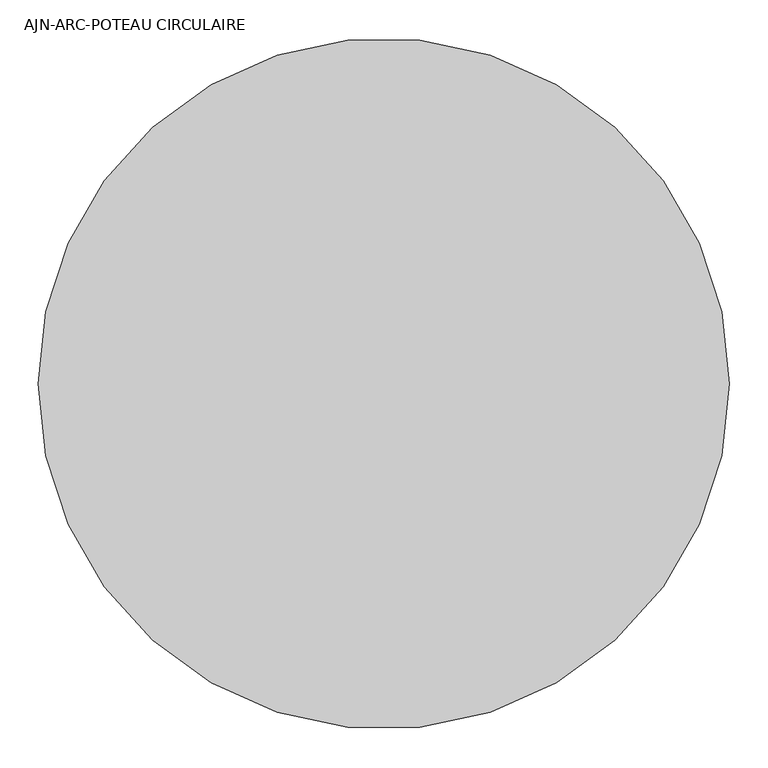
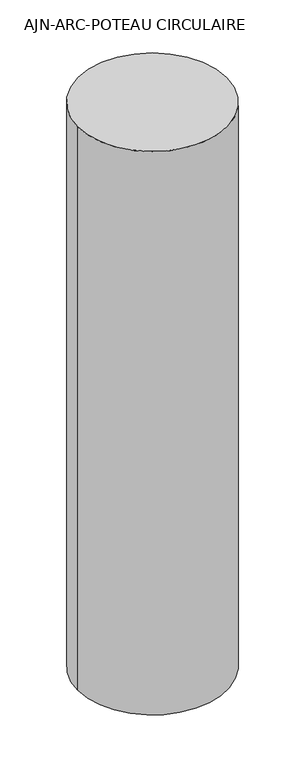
"""IFC4 building model written with IfcOpenShell, lengths in millimetres: column geometry, AJN-ARC-POTEAU CIRCULAIRE : ø90."""

import ifcopenshell
import ifcopenshell.guid

model = None  # the IFC model being written
_history = None  # IfcOwnerHistory: only IFC2X3 demands one
_inside = {}  # id of a spatial element -> (the spatial element, [elements in it])
_under = {}  # id of a project, library or spatial element -> (it, [spatial elements below it])
_declared = {}  # id of a project -> (the project, [libraries it declares])
_typed = {}  # id of a type object -> (the type object, [elements of that type])
_made_of = {}  # id of a material, layer set ... -> (it, [elements and type objects made of it])


def new_model(schema):
    """Start an empty IFC model of exactly this schema.

    Asked for "IFC4X3", IfcOpenShell would pick the latest addendum, in which some entities
    have other attributes; the version numbers below select the first issue.
    IFC2X3 requires an IfcOwnerHistory on every rooted entity: one is made here for all.
    """
    global model, _history
    if schema == "IFC4X3":
        model = ifcopenshell.file(schema_version=(4, 3, 0, 0))
    else:
        model = ifcopenshell.file(schema=schema)
    _inside.clear()
    _under.clear()
    _declared.clear()
    _typed.clear()
    _made_of.clear()
    _history = None
    if model.schema == "IFC2X3":
        org = make("IfcOrganization", Name="unknown")
        user = make(
            "IfcPersonAndOrganization",
            ThePerson=make("IfcPerson", FamilyName="unknown"),
            TheOrganization=org,
        )
        app = make(
            "IfcApplication",
            ApplicationDeveloper=org,
            Version="unknown",
            ApplicationFullName="unknown",
            ApplicationIdentifier="unknown",
        )
        _history = make(
            "IfcOwnerHistory",
            OwningUser=user,
            OwningApplication=app,
            ChangeAction="ADDED",
            CreationDate=0,
        )
    return model


def make(cls, **values):
    """One entity of the class cls with the attributes given. An attribute that is None is left unset."""
    return model.create_entity(
        cls, **{name: value for name, value in values.items() if value is not None}
    )


def rooted(cls, **values):
    """An entity with a GlobalId (a new one), such as an element, a storey or a relation."""
    return make(cls, GlobalId=ifcopenshell.guid.new(), OwnerHistory=_history, **values)


def si_unit(unit_type, name, prefix=None):
    """IfcSIUnit, for example si_unit("LENGTHUNIT", "METRE", prefix="MILLI")."""
    return make("IfcSIUnit", UnitType=unit_type, Prefix=prefix, Name=name)


def assignment(units):
    """IfcUnitAssignment: the units of a project."""
    return None if units is None else make("IfcUnitAssignment", Units=units)


def point(xyz):
    """IfcCartesianPoint."""
    return None if xyz is None else make("IfcCartesianPoint", Coordinates=xyz)


def direction(xyz):
    """IfcDirection."""
    return None if xyz is None else make("IfcDirection", DirectionRatios=xyz)


def frame(location, z_axis=None, x_axis=None):
    """IfcAxis2Placement3D, a coordinate frame: its origin and axes. An axis left out is left unset."""
    return make(
        "IfcAxis2Placement3D",
        Location=point(location),
        Axis=direction(z_axis),
        RefDirection=direction(x_axis),
    )


def frame_2d(location, x_axis=None):
    """IfcAxis2Placement2D, a coordinate frame in the plane: its origin and x axis."""
    return make(
        "IfcAxis2Placement2D", Location=point(location), RefDirection=direction(x_axis)
    )


def origin():
    """The frame at (0, 0, 0) with its axes left unset."""
    return frame((0.0, 0.0, 0.0))


def origin_2d():
    """The frame at (0, 0) in the plane with its x axis left unset."""
    return frame_2d((0.0, 0.0))


def place(relative_to, where):
    """IfcLocalPlacement: puts the frame where relative to a parent placement (None: the world)."""
    return make(
        "IfcLocalPlacement", PlacementRelTo=relative_to, RelativePlacement=where
    )


def context(
    kind, dimensions, precision=None, world=None, true_north=None, identifier=None
):
    """IfcGeometricRepresentationContext, for example the 3D "Model" context."""
    return make(
        "IfcGeometricRepresentationContext",
        ContextIdentifier=identifier,
        ContextType=kind,
        CoordinateSpaceDimension=dimensions,
        Precision=precision,
        WorldCoordinateSystem=world,
        TrueNorth=true_north,
    )


def project(units=None, contexts=None):
    """IfcProject with its units and contexts."""
    return rooted(
        "IfcProject",
        Name="project",
        RepresentationContexts=contexts,
        UnitsInContext=assignment(units),
    )


def spatial(cls, under=None, at=None, **own):
    """A site, building, storey or space (cls), placed at a placement, below another one or the project."""
    s = rooted(cls, ObjectPlacement=at, **own)
    if under is not None:
        _under.setdefault(under.id(), (under, []))[1].append(s)
    return s


def circle_curve(where, radius):
    """IfcCircle in the frame where."""
    return make("IfcCircle", Position=where, Radius=radius)


def trimmed(basis, trim1, trim2, sense, master):
    """IfcTrimmedCurve: the piece of a basis curve between two trims."""
    return make(
        "IfcTrimmedCurve",
        BasisCurve=basis,
        Trim1=trim1,
        Trim2=trim2,
        SenseAgreement=sense,
        MasterRepresentation=master,
    )


def segment(curve, same_sense, transition):
    """IfcCompositeCurveSegment."""
    return make(
        "IfcCompositeCurveSegment",
        Transition=transition,
        SameSense=same_sense,
        ParentCurve=curve,
    )


def composite_curve(segments, self_intersect=None):
    """IfcCompositeCurve: segments joined end to end."""
    return make("IfcCompositeCurve", Segments=segments, SelfIntersect=self_intersect)


def outline(outer, holes=None, kind="AREA"):
    """IfcArbitraryClosedProfileDef: a profile drawn as a closed curve; with holes, ...WithVoids."""
    if holes is None:
        return make("IfcArbitraryClosedProfileDef", ProfileType=kind, OuterCurve=outer)
    return make(
        "IfcArbitraryProfileDefWithVoids",
        ProfileType=kind,
        OuterCurve=outer,
        InnerCurves=holes,
    )


def extrude(swept, where, along, depth):
    """IfcExtrudedAreaSolid: the profile swept, set in the frame where, extruded along a direction by depth."""
    return make(
        "IfcExtrudedAreaSolid",
        SweptArea=swept,
        Position=where,
        ExtrudedDirection=direction(along),
        Depth=depth,
    )


def shape(context_of_items, identifier, shape_type, items):
    """IfcShapeRepresentation: the items that make up one representation, for example the "Body"."""
    return make(
        "IfcShapeRepresentation",
        ContextOfItems=context_of_items,
        RepresentationIdentifier=identifier,
        RepresentationType=shape_type,
        Items=items,
    )


def source(mapping_origin, context_of_items, identifier, shape_type, items):
    """IfcRepresentationMap: a shape defined once, which mapped items show again and again."""
    return make(
        "IfcRepresentationMap",
        MappingOrigin=mapping_origin,
        MappedRepresentation=shape(context_of_items, identifier, shape_type, items),
    )


def transform(
    local_origin,
    x_axis=None,
    y_axis=None,
    z_axis=None,
    scale=None,
    scale2=None,
    scale3=None,
    uniform=True,
):
    """IfcCartesianTransformationOperator3D, or its non-uniform kind. x_axis, y_axis, z_axis: its Axis1, 2, 3."""
    if uniform:
        return make(
            "IfcCartesianTransformationOperator3D",
            Axis1=direction(x_axis),
            Axis2=direction(y_axis),
            LocalOrigin=point(local_origin),
            Scale=scale,
            Axis3=direction(z_axis),
        )
    return make(
        "IfcCartesianTransformationOperator3DnonUniform",
        Axis1=direction(x_axis),
        Axis2=direction(y_axis),
        LocalOrigin=point(local_origin),
        Scale=scale,
        Axis3=direction(z_axis),
        Scale2=scale2,
        Scale3=scale3,
    )


def mapped(mapping_source, mapping_target):
    """IfcMappedItem: shows the shape of a source again, moved by a transform."""
    return make(
        "IfcMappedItem", MappingSource=mapping_source, MappingTarget=mapping_target
    )


def made_of(thing, what):
    """Note that an element or type object is made of a material, layer set ...; save() writes the relation."""
    if what is not None:
        _made_of.setdefault(what.id(), (what, []))[1].append(thing)
    return thing


def element(
    cls,
    number,
    at=None,
    inside=None,
    cuts=None,
    type_object=None,
    material=None,
    context=None,
    identifier="Body",
    shape_type=None,
    held_by="IfcProductDefinitionShape",
    body=None,
    shapes=None,
    **own,
):
    """One element of the class cls, such as IfcWall. Its Tag is "e" and its number.

    at: its placement. inside: the storey or other place that contains it. cuts: it is an
    opening in that element (IfcRelVoidsElement). A single representation is given by context,
    identifier, shape_type and body (its items); several are given by shapes. held_by: the class
    of the entity that holds the representations. save() writes the other relations.
    """
    e = rooted(cls, Tag="e%d" % number, ObjectPlacement=at, **own)
    if body is not None:
        shapes = [shape(context, identifier, shape_type, body)]
    if shapes is not None:
        e.Representation = make(held_by, Representations=shapes)
    if inside is not None:
        _inside.setdefault(inside.id(), (inside, []))[1].append(e)
    if cuts is not None:
        rooted(
            "IfcRelVoidsElement", RelatingBuildingElement=cuts, RelatedOpeningElement=e
        )
    if type_object is not None:
        _typed.setdefault(type_object.id(), (type_object, []))[1].append(e)
    return made_of(e, material)


def aggregate(whole, parts):
    """IfcRelAggregates: a whole, such as a stair, and the parts it consists of."""
    return rooted("IfcRelAggregates", RelatingObject=whole, RelatedObjects=parts)


def save(model, path):
    """Write the relations noted so far, then the file.

    IfcRelAggregates (storeys below a building ...), IfcRelContainedInSpatialStructure (elements
    in a storey), IfcRelDefinesByType, IfcRelAssociatesMaterial and IfcRelDeclares: one each for
    every whole, place, type object, material and project.
    """
    for whole, parts in _under.values():
        aggregate(whole, parts)
    for where, things in _inside.values():
        rooted(
            "IfcRelContainedInSpatialStructure",
            RelatedElements=things,
            RelatingStructure=where,
        )
    for kind, things in _typed.values():
        rooted("IfcRelDefinesByType", RelatedObjects=things, RelatingType=kind)
    for what, things in _made_of.values():
        rooted("IfcRelAssociatesMaterial", RelatedObjects=things, RelatingMaterial=what)
    for by, libraries in _declared.values():
        rooted("IfcRelDeclares", RelatingContext=by, RelatedDefinitions=libraries)
    model.write(path)


def ajn_arc_poteau_circulaire_371a530a(model_context):
    return source(origin(), model_context, "Body", "SweptSolid", [
        extrude(outline(composite_curve([segment(trimmed(circle_curve(origin_2d(), 450.0), [point((-450.0, 0.0))], [point((450.0, 0.0))], False, "CARTESIAN"), True, "CONTINUOUS"), segment(trimmed(circle_curve(origin_2d(), 450.0), [point((450.0, 0.0))], [point((-450.0, 0.0))], False, "CARTESIAN"), True, "CONTINUOUS")], self_intersect=False)), frame((0.0, 0.0, 27999.9999686), z_axis=(0.0, 0.0, 1.0), x_axis=(1.0, 0.0, 0.0)), (0.0, 0.0, 1.0), 3600.0),
    ])


if __name__ == "__main__":
    model = new_model("IFC4")
    model_context = context("Model", 3, world=origin())
    ifc_project = project(units=[si_unit("LENGTHUNIT", "METRE", prefix="MILLI")], contexts=[model_context])
    site = spatial("IfcSite", under=ifc_project)
    building = spatial("IfcBuilding", under=site)
    placement = place(None, origin())
    ajn_arc_poteau_circulaire_shape = ajn_arc_poteau_circulaire_371a530a(model_context)
    element("IfcColumn", 1, ObjectType="AJN-ARC-POTEAU CIRCULAIRE : ø90", at=placement, inside=building, context=model_context, shape_type="MappedRepresentation", body=[
        mapped(ajn_arc_poteau_circulaire_shape, transform((0.0, 0.0, 0.0), x_axis=(1.0, 0.0, 0.0), y_axis=(0.0, 1.0, 0.0), z_axis=(0.0, 0.0, 1.0))),
    ])
    save(model, "model.ifc")
